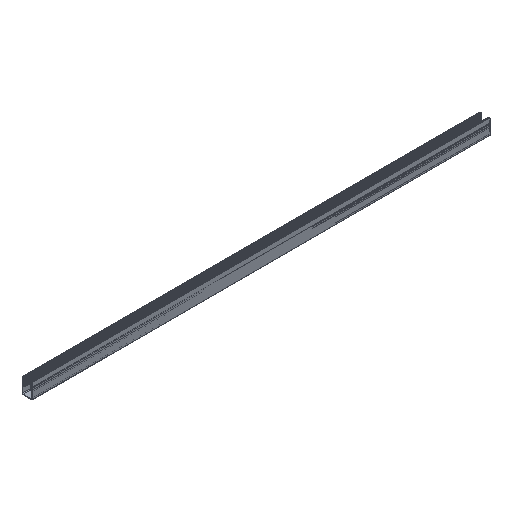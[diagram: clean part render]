
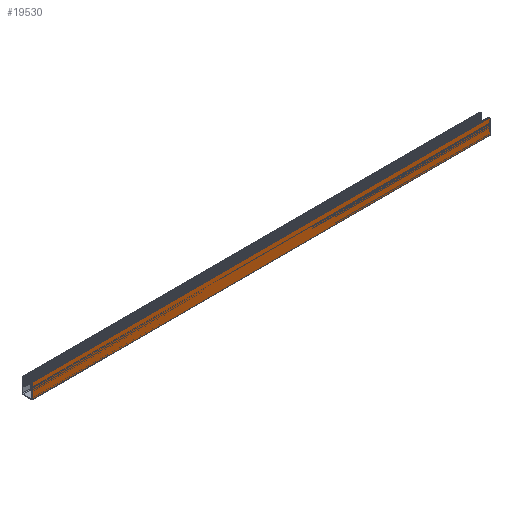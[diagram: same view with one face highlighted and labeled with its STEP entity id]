
A CAD part, isometric view. The second image highlights one B-rep face of the part: STEP entity #19530.
In plain terms, the highlighted planar face has unit normal (0, -1, 0).
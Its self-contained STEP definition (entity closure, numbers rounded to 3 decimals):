
#652=PLANE('',#20536);
#1548=FACE_OUTER_BOUND('',#2518,.T.);
#2518=EDGE_LOOP('',(#15115,#15116,#15117,#15118));
#4358=LINE('',#28292,#7074);
#4359=LINE('',#28295,#7075);
#4360=LINE('',#28297,#7076);
#4361=LINE('',#28298,#7077);
#7074=VECTOR('',#23272,10.);
#7075=VECTOR('',#23275,10.);
#7076=VECTOR('',#23276,10.);
#7077=VECTOR('',#23277,10.);
#9401=VERTEX_POINT('',#28288);
#9402=VERTEX_POINT('',#28290);
#9403=VERTEX_POINT('',#28294);
#9404=VERTEX_POINT('',#28296);
#11770=EDGE_CURVE('',#9401,#9402,#4358,.T.);
#11771=EDGE_CURVE('',#9401,#9403,#4359,.T.);
#11772=EDGE_CURVE('',#9404,#9402,#4360,.T.);
#11773=EDGE_CURVE('',#9403,#9404,#4361,.T.);
#15115=ORIENTED_EDGE('',*,*,#11771,.F.);
#15116=ORIENTED_EDGE('',*,*,#11770,.T.);
#15117=ORIENTED_EDGE('',*,*,#11772,.F.);
#15118=ORIENTED_EDGE('',*,*,#11773,.F.);
#19530=ADVANCED_FACE('',(#1548),#652,.T.);
#20536=AXIS2_PLACEMENT_3D('',#28293,#23273,#23274);
#23272=DIRECTION('',(1.,0.,0.));
#23273=DIRECTION('center_axis',(0.,-1.,0.));
#23274=DIRECTION('ref_axis',(0.,0.,-1.));
#23275=DIRECTION('',(0.,0.,1.));
#23276=DIRECTION('',(0.,0.,-1.));
#23277=DIRECTION('',(1.,0.,0.));
#28288=CARTESIAN_POINT('',(0.,-11.,0.5));
#28290=CARTESIAN_POINT('',(1000.,-11.,0.5));
#28292=CARTESIAN_POINT('',(0.,-11.,0.5));
#28293=CARTESIAN_POINT('Origin',(0.,-11.,33.4));
#28294=CARTESIAN_POINT('',(0.,-11.,33.4));
#28295=CARTESIAN_POINT('',(0.,-11.,0.5));
#28296=CARTESIAN_POINT('',(1000.,-11.,33.4));
#28297=CARTESIAN_POINT('',(1000.,-11.,0.5));
#28298=CARTESIAN_POINT('',(0.,-11.,33.4));
